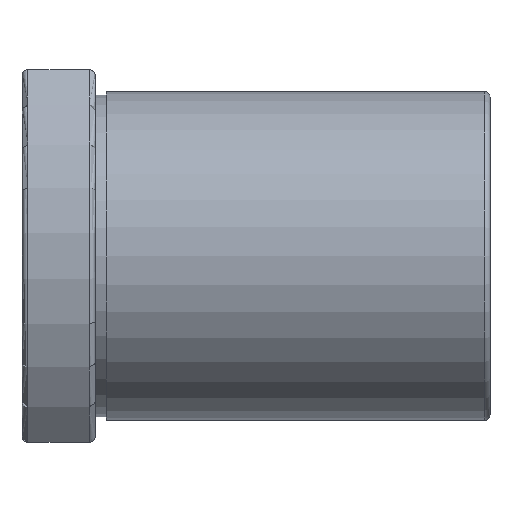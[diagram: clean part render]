
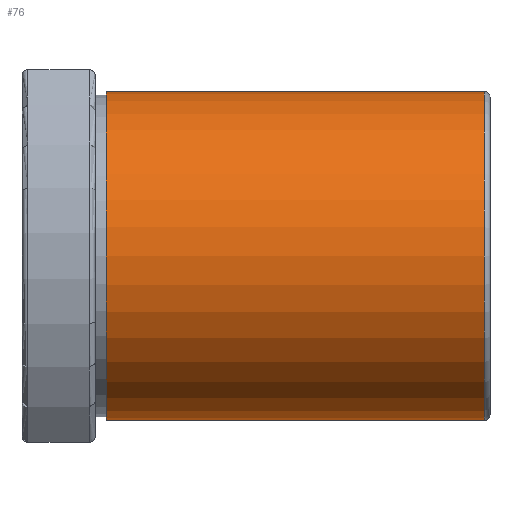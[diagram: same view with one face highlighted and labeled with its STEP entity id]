
A CAD part, front view. The second image highlights one B-rep face of the part: STEP entity #76.
In plain terms, the highlighted cylindrical face has radius 22.5 mm (diameter 45 mm), a full revolution.
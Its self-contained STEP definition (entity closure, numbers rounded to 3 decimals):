
#76 = ADVANCED_FACE( '', ( #182, #183 ), #184, .T. );
#182 = FACE_OUTER_BOUND( '', #329, .T. );
#183 = FACE_OUTER_BOUND( '', #330, .T. );
#184 = CYLINDRICAL_SURFACE( '', #331, 22.5 );
#329 = EDGE_LOOP( '', ( #498 ) );
#330 = EDGE_LOOP( '', ( #499 ) );
#331 = AXIS2_PLACEMENT_3D( '', #500, #501, #502 );
#498 = ORIENTED_EDGE( '', *, *, #722, .F. );
#499 = ORIENTED_EDGE( '', *, *, #725, .T. );
#500 = CARTESIAN_POINT( '', ( 36.9, 0., 0. ) );
#501 = DIRECTION( '', ( -1., 0., 0. ) );
#502 = DIRECTION( '', ( 0., 1., 0. ) );
#722 = EDGE_CURVE( '', #836, #836, #837, .F. );
#725 = EDGE_CURVE( '', #841, #841, #842, .F. );
#836 = VERTEX_POINT( '', #1007 );
#837 = CIRCLE( '', #1008, 22.5 );
#841 = VERTEX_POINT( '', #1012 );
#842 = CIRCLE( '', #1013, 22.5 );
#1007 = CARTESIAN_POINT( '', ( 11.5, 0., -22.5 ) );
#1008 = AXIS2_PLACEMENT_3D( '', #1159, #1160, #1161 );
#1012 = CARTESIAN_POINT( '', ( 63.2, 22.5, 0. ) );
#1013 = AXIS2_PLACEMENT_3D( '', #1165, #1166, #1167 );
#1159 = CARTESIAN_POINT( '', ( 11.5, 0., 0. ) );
#1160 = DIRECTION( '', ( 1., 0., 0. ) );
#1161 = DIRECTION( '', ( 0., 0., -1. ) );
#1165 = CARTESIAN_POINT( '', ( 63.2, 0., 0. ) );
#1166 = DIRECTION( '', ( 1., 0., 0. ) );
#1167 = DIRECTION( '', ( 0., 0., -1. ) );
